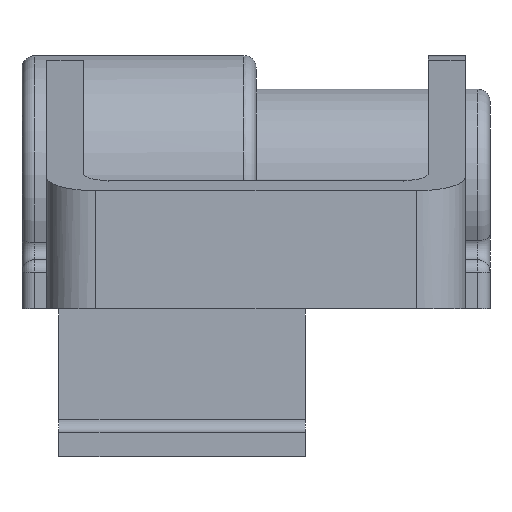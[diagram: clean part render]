
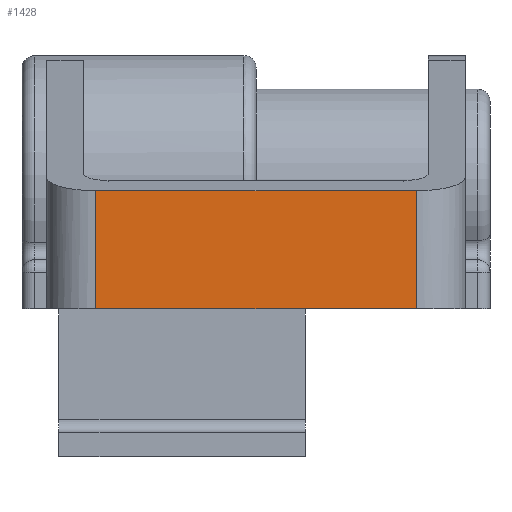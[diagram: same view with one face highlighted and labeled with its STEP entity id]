
A CAD part, front view. The second image highlights one B-rep face of the part: STEP entity #1428.
In plain terms, the highlighted planar face has unit normal (0, -1, 0).
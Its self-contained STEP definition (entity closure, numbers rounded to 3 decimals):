
#67 = VERTEX_POINT ( 'NONE', #780 ) ;
#160 = VECTOR ( 'NONE', #1685, 1000. ) ;
#252 = LINE ( 'NONE', #1962, #160 ) ;
#259 = VERTEX_POINT ( 'NONE', #1626 ) ;
#321 = CARTESIAN_POINT ( 'NONE',  ( 6.5, -20.5, 4.8 ) ) ;
#426 = EDGE_CURVE ( 'NONE', #2787, #67, #252, .T. ) ;
#476 = FACE_OUTER_BOUND ( 'NONE', #1349, .T. ) ;
#494 = EDGE_CURVE ( 'NONE', #259, #2787, #2793, .T. ) ;
#505 = VERTEX_POINT ( 'NONE', #321 ) ;
#544 = DIRECTION ( 'NONE',  ( 1., 0., 0. ) ) ;
#567 = CARTESIAN_POINT ( 'NONE',  ( -6.5, -20.5, 0. ) ) ;
#713 = DIRECTION ( 'NONE',  ( 0., 0., 1. ) ) ;
#717 = VECTOR ( 'NONE', #1016, 1000. ) ;
#725 = VECTOR ( 'NONE', #2806, 1000. ) ;
#780 = CARTESIAN_POINT ( 'NONE',  ( 6.5, -20.5, 0. ) ) ;
#864 = CARTESIAN_POINT ( 'NONE',  ( 6.5, -20.5, 2. ) ) ;
#867 = LINE ( 'NONE', #2274, #1442 ) ;
#893 = ORIENTED_EDGE ( 'NONE', *, *, #426, .T. ) ;
#1016 = DIRECTION ( 'NONE',  ( 0., 0., -1. ) ) ;
#1065 = EDGE_CURVE ( 'NONE', #505, #67, #1120, .T. ) ;
#1120 = LINE ( 'NONE', #864, #725 ) ;
#1286 = ORIENTED_EDGE ( 'NONE', *, *, #1065, .F. ) ;
#1349 = EDGE_LOOP ( 'NONE', ( #1286, #1697, #2153, #893 ) ) ;
#1428 = ADVANCED_FACE ( 'NONE', ( #476 ), #1476, .F. ) ;
#1442 = VECTOR ( 'NONE', #544, 1000. ) ;
#1476 = PLANE ( 'NONE',  #2334 ) ;
#1626 = CARTESIAN_POINT ( 'NONE',  ( -6.5, -20.5, 4.8 ) ) ;
#1685 = DIRECTION ( 'NONE',  ( 1., 0., 0. ) ) ;
#1697 = ORIENTED_EDGE ( 'NONE', *, *, #2484, .F. ) ;
#1756 = CARTESIAN_POINT ( 'NONE',  ( -6.5, -20.5, 2. ) ) ;
#1961 = CARTESIAN_POINT ( 'NONE',  ( -6.5, -20.5, 2. ) ) ;
#1962 = CARTESIAN_POINT ( 'NONE',  ( -6.5, -20.5, 0. ) ) ;
#2153 = ORIENTED_EDGE ( 'NONE', *, *, #494, .T. ) ;
#2274 = CARTESIAN_POINT ( 'NONE',  ( -9.5, -20.5, 4.8 ) ) ;
#2334 = AXIS2_PLACEMENT_3D ( 'NONE', #1961, #3173, #713 ) ;
#2484 = EDGE_CURVE ( 'NONE', #259, #505, #867, .T. ) ;
#2787 = VERTEX_POINT ( 'NONE', #567 ) ;
#2793 = LINE ( 'NONE', #1756, #717 ) ;
#2806 = DIRECTION ( 'NONE',  ( 0., 0., -1. ) ) ;
#3173 = DIRECTION ( 'NONE',  ( 0., 1., 0. ) ) ;
